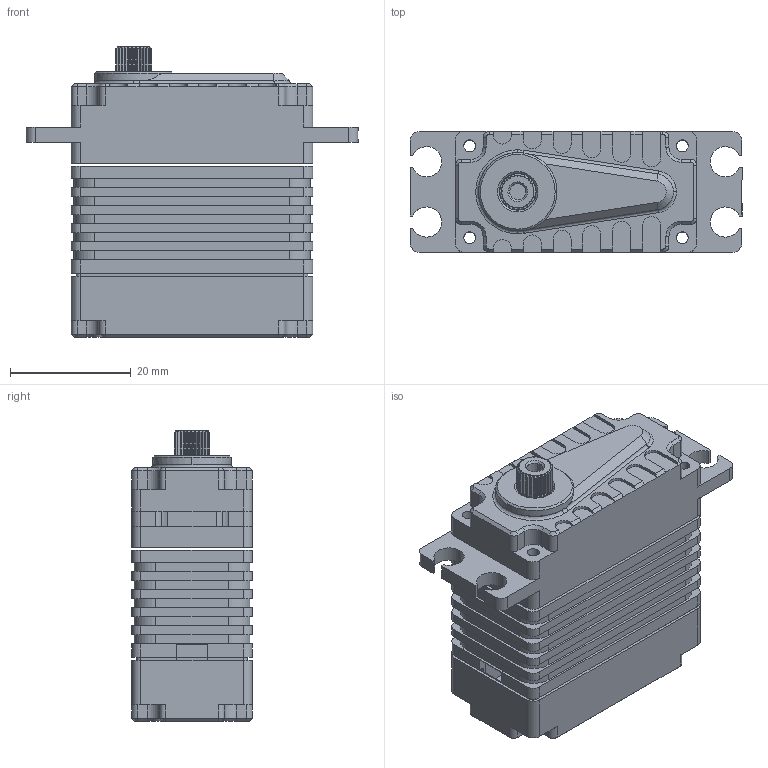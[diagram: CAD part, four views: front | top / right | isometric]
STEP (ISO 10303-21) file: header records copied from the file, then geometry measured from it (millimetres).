
FILE_DESCRIPTION (( 'STEP AP214' ), '1' );
FILE_NAME ('X20-XX-M-850-X_DM.STEP', '2021-08-18T05:27:58', ( '微软用户' ), ( '微软中国' ), 'SwSTEP 2.0', 'SolidWorks 2016', '' );
FILE_SCHEMA (( 'AUTOMOTIVE_DESIGN' ));
Length unit declared in the file: millimetre
Products named in the file (1): X20-XX-M-850-X_DM
Bounding box: 55 x 20 x 48.1 mm (x, y, z)
Surface area: 10475.3 mm2 (no closed solid volume)
Topology: 0 solids, 10 shells, 509 faces, 1475 edges, 988 vertices
Faces by surface type: plane 255, cylinder 192, cone 57, bspline 5
Entity records: 22621 total; most frequent: CARTESIAN_POINT 3315, DIRECTION 2922, ORIENTED_EDGE 2807, EDGE_CURVE 1475, AXIS2_PLACEMENT_3D 1001, VERTEX_POINT 988, LINE 920, VECTOR 920
